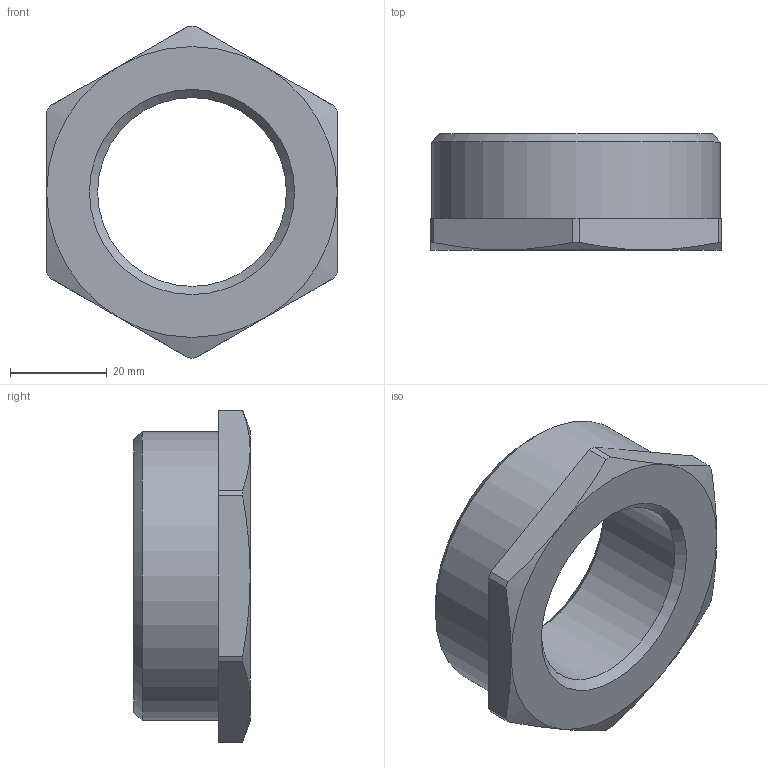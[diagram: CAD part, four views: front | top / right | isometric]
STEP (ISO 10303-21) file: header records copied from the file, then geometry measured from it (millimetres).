
FILE_DESCRIPTION(('STEP AP203'), '1');
FILE_NAME('ÂÐ.753128.042 - VTr.581.N.0907 Ôèò. ðåçüá', '2024-07-05T08:30:11', ('Boss'), (''), 'C3D Converter', 'C3D Toolkit', '');
FILE_SCHEMA(('CONFIG_CONTROL_DESIGN'));
Length unit declared in the file: millimetre
Products named in the file (1): ВР.753128.042
Bounding box: 60 x 24 x 68.5 mm (x, y, z)
Volume: 39724.3 mm3; surface area: 10880.1 mm2
Topology: 1 solids, 1 shells, 24 faces, 56 edges, 35 vertices
Faces by surface type: plane 9, cylinder 8, cone 7
Full cylindrical faces by diameter (mm): 38.953 x1, 59.614 x1
Entity records: 916 total; most frequent: CARTESIAN_POINT 350, DIRECTION 114, ORIENTED_EDGE 102, EDGE_CURVE 51, AXIS2_PLACEMENT_3D 48, VERTEX_POINT 35, EDGE_LOOP 32, ADVANCED_FACE 24
